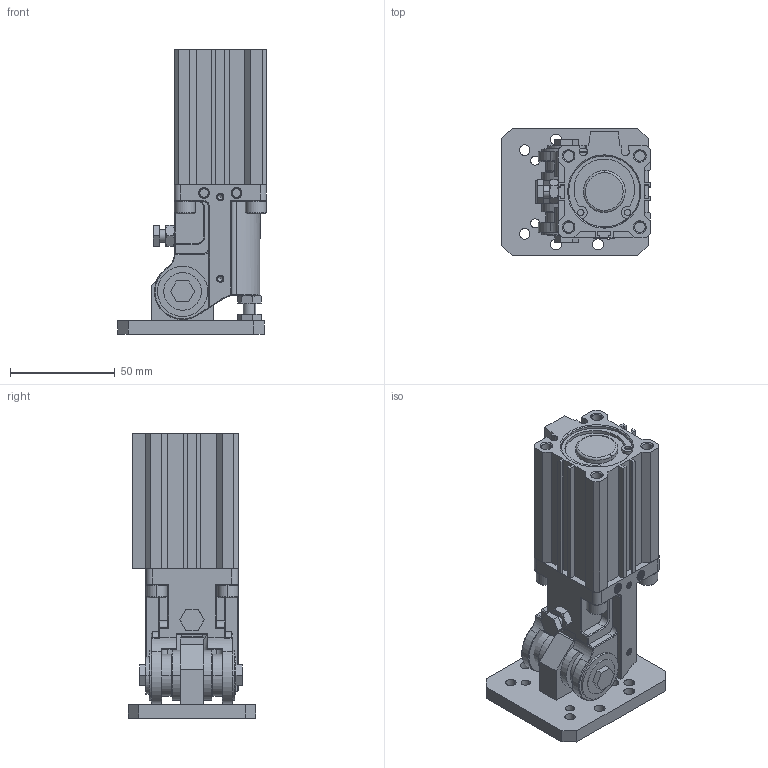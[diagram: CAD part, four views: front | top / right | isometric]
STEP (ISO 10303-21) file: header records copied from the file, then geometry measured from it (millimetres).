
FILE_DESCRIPTION(/* description */ (''),/* implementation_level */ '2;1');
FILE_NAME(/* name */ 'DHR2C-32M30ZG-ZB(2022).stp',/* time_stamp */ '2022-11-02T16:23:34+08:00',/* author */ (''),/* organization */ (''),/* preprocessor_version */ 'ST-DEVELOPER v14',/* originating_system */ 'SIEMENS PLM Software NX 8.0',/* authorisation */ '');
FILE_SCHEMA (('AP203_CONFIGURATION_CONTROLLED_3D_DESIGN_OF_MECHANICAL_PARTS_AND_ASSEMBLIES_MIM_LF { 1 0 10303 403 2 1 2}'));
Products named in the file (1): Admi1648FD98p2tv
Bounding box: 71.04 x 61.01 x 136.06 mm (x, y, z)
Volume: 214828.1 mm3; surface area: 79639.3 mm2
Topology: 29 solids, 31 shells, 1025 faces, 2526 edges, 1575 vertices
Faces by surface type: plane 480, cylinder 308, cone 197, bspline 32, torus 8
Full cylindrical faces by diameter (mm): 4 x1, 5 x16, 6.5 x4, 10 x2, 15 x2, 16 x1, 20.5 x1
Entity records: 62750 total; most frequent: CARTESIAN_POINT 38853, DIRECTION 5081, ORIENTED_EDGE 4810, EDGE_CURVE 2405, AXIS2_PLACEMENT_3D 1910, VERTEX_POINT 1517, LINE 1261, VECTOR 1261
